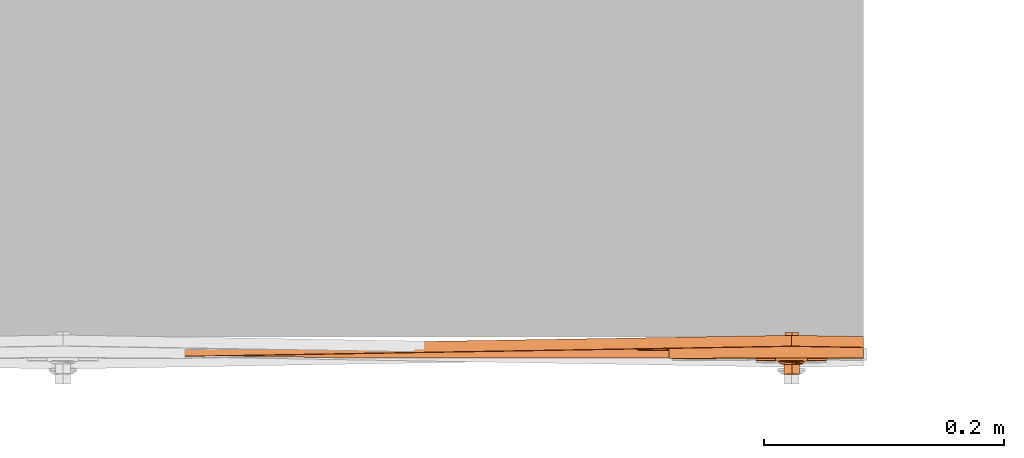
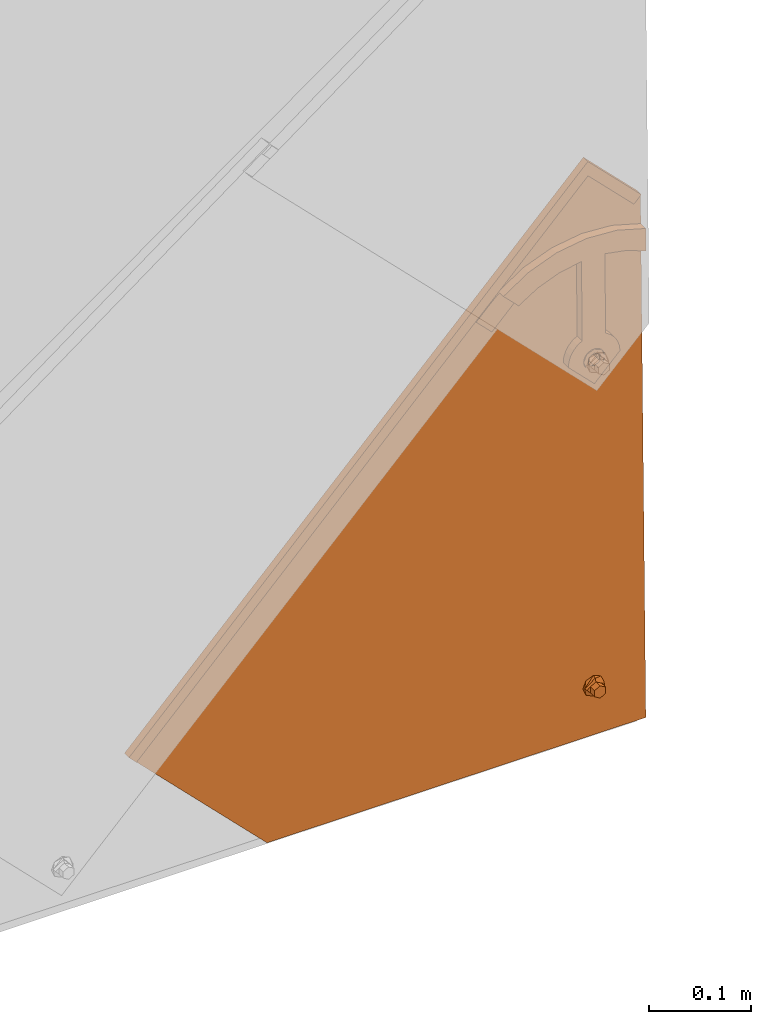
# One storey, part 147 of 151: 1 proxy.
"""IFC2X3 building model written with IfcOpenShell, lengths in millimetres."""

from ifc_helpers import new_model, entity, si_unit, converted_unit, derived_unit, direction, frame, origin, place, context, subcontext, project, spatial, faceted_brep, source, transform, mapped, material, material_list, type_object, type_shapes, element, save


model = new_model("IFC2X3")

# Units and contexts
model_context = context("Model", 3, precision=0.01, world=origin(), true_north=direction((6.12303176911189e-17, 1.0)))
body_context = subcontext(model_context, "Body", "Model", "MODEL_VIEW")
ifc_project = project(units=[si_unit("LENGTHUNIT", "METRE", prefix="MILLI"), si_unit("AREAUNIT", "SQUARE_METRE"), si_unit("VOLUMEUNIT", "CUBIC_METRE"), converted_unit("PLANEANGLEUNIT", "DEGREE", entity("IfcRatioMeasure", 0.0174532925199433), si_unit("PLANEANGLEUNIT", "RADIAN"), dimensions=[0, 0, 0, 0, 0, 0, 0]), si_unit("MASSUNIT", "GRAM", prefix="KILO"), derived_unit("MASSDENSITYUNIT", [(si_unit("MASSUNIT", "GRAM", prefix="KILO"), 1), (si_unit("LENGTHUNIT", "METRE"), -3)]), si_unit("TIMEUNIT", "SECOND"), si_unit("FREQUENCYUNIT", "HERTZ"), si_unit("THERMODYNAMICTEMPERATUREUNIT", "DEGREE_CELSIUS"), derived_unit("THERMALTRANSMITTANCEUNIT", [(si_unit("MASSUNIT", "GRAM", prefix="KILO"), 1), (si_unit("THERMODYNAMICTEMPERATUREUNIT", "KELVIN"), -1), (si_unit("TIMEUNIT", "SECOND"), -3)]), derived_unit("VOLUMETRICFLOWRATEUNIT", [(si_unit("LENGTHUNIT", "METRE"), 3), (si_unit("TIMEUNIT", "SECOND"), -1)]), si_unit("ELECTRICCURRENTUNIT", "AMPERE"), si_unit("ELECTRICVOLTAGEUNIT", "VOLT"), si_unit("POWERUNIT", "WATT"), si_unit("FORCEUNIT", "NEWTON", prefix="KILO"), si_unit("ILLUMINANCEUNIT", "LUX"), si_unit("LUMINOUSFLUXUNIT", "LUMEN"), si_unit("LUMINOUSINTENSITYUNIT", "CANDELA"), derived_unit("USERDEFINED", [(si_unit("MASSUNIT", "GRAM", prefix="KILO"), -1), (si_unit("LENGTHUNIT", "METRE"), -2), (si_unit("TIMEUNIT", "SECOND"), 3), (si_unit("LUMINOUSFLUXUNIT", "LUMEN"), 1)]), derived_unit("LINEARVELOCITYUNIT", [(si_unit("LENGTHUNIT", "METRE"), 1), (si_unit("TIMEUNIT", "SECOND"), -1)]), si_unit("PRESSUREUNIT", "PASCAL"), derived_unit("USERDEFINED", [(si_unit("LENGTHUNIT", "METRE"), -2), (si_unit("MASSUNIT", "GRAM", prefix="KILO"), 1), (si_unit("TIMEUNIT", "SECOND"), -2)])], contexts=[model_context])

# Site, building, storey
site_placement = place(None, origin())
site = spatial("IfcSite", under=ifc_project, at=site_placement, Name="Default", CompositionType="ELEMENT")
building_placement = place(site_placement, origin())
building = spatial("IfcBuilding", under=site, at=building_placement, CompositionType="ELEMENT")
storey_placement = place(building_placement, origin())
storey = spatial("IfcBuildingStorey", under=building, at=storey_placement, Name="Level 1", CompositionType="ELEMENT", Elevation=0.0)

# Proxy
ifc_material_1 = material(Name="Rubber - Sunstyle - Black")
ifc_material_2 = material(Name="Glass - Sunstyle - Tainted Terracotta")
ifc_material_list_1 = material_list([ifc_material_1, ifc_material_2])
ifc_material_list_2 = material_list([ifc_material_1, ifc_material_2])
building_element_proxy_type = type_object("IfcBuildingElementProxyType", Name="Corner Bottom Big Right - Terracotta", PredefinedType="NOTDEFINED", material=ifc_material_list_2)
shared_shape = source(origin(), body_context, "Body", "Brep", [
    faceted_brep([(0.270009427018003, -2.025866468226, -4.01619789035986), (-5.50419340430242, -5.35913660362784, -3.96037390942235), (-5.50419340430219, -4.99082751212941, 18.0314954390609), (0.270009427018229, -1.65755737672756, 17.9756714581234), (-5.50419340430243, -12.0256768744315, -3.84872594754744), (-5.5041934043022, -11.6573677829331, 18.1431434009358), (0.270009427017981, -15.3589470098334, -3.79290196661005), (0.270009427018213, -14.990637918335, 18.1989673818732), (6.04421225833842, -12.0256768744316, -3.84872594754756), (6.04421225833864, -11.6573677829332, 18.1431434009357), (6.04421225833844, -5.35913660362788, -3.96037390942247), (6.04421225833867, -4.99082751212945, 18.0314954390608), (-8.3336947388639, -16.9265954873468, 18.2313898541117), (0.27000942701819, -20.4898667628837, 18.2910657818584), (-11.8974656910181, -8.32409764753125, 18.0873194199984), (-8.33369473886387, 0.278400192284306, 17.9432489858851), (0.270009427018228, 3.84167146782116, 17.8835730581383), (8.87371359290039, 0.278400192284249, 17.9432489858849), (12.4374845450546, -8.32409764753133, 18.0873194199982), (8.87371359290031, -16.9265954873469, 18.2313898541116), (-11.1602134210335, -6.95050198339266, 20.4858706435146), (-9.50050407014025, -8.25322861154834, 22.3189355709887), (0.270009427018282, -0.940007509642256, 22.9603444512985), (0.27000942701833, 0.300490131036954, 22.3799978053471), (0.270009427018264, 2.4580409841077, 21.3706227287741), (-6.05323627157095, -4.59022324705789, 23.0214764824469), (-6.05323627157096, -11.8906547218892, 23.1437405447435), (0.270009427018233, -18.990246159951, 21.7298281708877), (0.270009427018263, -15.5408704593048, 23.2048725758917), (11.2551842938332, -12.0411541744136, 20.3827540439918), (10.3938597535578, -8.25726753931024, 22.077768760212), (6.59325512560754, -4.59022324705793, 23.0214764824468), (6.5932551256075, -11.8906547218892, 23.1437405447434), (-6.05323627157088, -11.7566262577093, 31.1466287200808), (0.270009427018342, -15.4068419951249, 31.207760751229), (0.270009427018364, -8.10641052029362, 31.0854966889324), (-6.05323627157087, -4.456194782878, 31.0243646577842), (6.59325512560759, -11.7566262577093, 31.1466287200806), (6.59325512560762, -4.45619478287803, 31.024364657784), (0.270009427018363, -0.805979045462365, 30.9632326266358), (0.270009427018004, -8.69240673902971, -3.90454992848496)], [[[0, 1, 2, 3]], [[1, 4, 5, 2]], [[4, 6, 7, 5]], [[6, 8, 9, 7]], [[8, 10, 11, 9]], [[10, 0, 3, 11]], [[12, 7, 13]], [[7, 12, 5]], [[14, 5, 12]], [[5, 14, 2]], [[15, 2, 14]], [[3, 2, 15]], [[15, 16, 3]], [[16, 17, 3]], [[11, 3, 17]], [[11, 17, 18]], [[9, 11, 18]], [[18, 19, 9]], [[7, 9, 19]], [[19, 13, 7]], [[15, 20, 16]], [[21, 22, 23, 24]], [[22, 21, 25]], [[20, 14, 12]], [[15, 14, 20]], [[25, 21, 26]], [[20, 24, 16]], [[12, 13, 27]], [[12, 27, 20]], [[21, 28, 26]], [[21, 27, 28]], [[20, 21, 24]], [[20, 27, 21]], [[19, 29, 13]], [[30, 23, 31]], [[30, 28, 27]], [[24, 23, 30]], [[29, 27, 13]], [[19, 18, 29]], [[29, 30, 27]], [[29, 17, 24]], [[24, 17, 16]], [[31, 32, 30]], [[23, 22, 31]], [[28, 30, 32]], [[29, 24, 30]], [[29, 18, 17]], [[33, 34, 35]], [[35, 36, 33]], [[34, 37, 35]], [[38, 35, 37]], [[35, 38, 39]], [[35, 39, 36]], [[40, 6, 4]], [[4, 1, 40]], [[1, 0, 40]], [[40, 8, 6]], [[0, 10, 40]], [[8, 40, 10]], [[22, 25, 36, 39]], [[25, 26, 33, 36]], [[26, 28, 34, 33]], [[28, 32, 37, 34]], [[32, 31, 38, 37]], [[31, 22, 39, 38]]]),
    faceted_brep([(-518.247351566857, 79.9143812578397, 14.9652572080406), (-518.247351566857, 79.9394990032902, 16.4650468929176), (-526.732038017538, 88.4241854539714, 16.3229495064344), (-526.732038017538, 88.399067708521, 14.8231598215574), (-0.00032251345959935, 614.98308737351, 6.00418773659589), (60.1037538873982, 554.895864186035, 7.01049921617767), (51.6190674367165, 546.411177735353, 7.15259660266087), (-0.000322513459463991, 598.016093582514, 6.28834266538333), (-0.000322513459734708, 615.00820511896, 7.50397742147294), (-0.000322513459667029, 598.041211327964, 7.78813235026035), (51.6190674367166, 546.436295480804, 8.65238628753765), (60.1037538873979, 554.920981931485, 8.51028890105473)], [[[0, 1, 2, 3]], [[0, 3, 4, 5, 6, 7]], [[3, 2, 8, 4]], [[2, 1, 9, 10, 11, 8]], [[1, 0, 7, 9]], [[6, 5, 11, 10]], [[4, 8, 11, 5]], [[9, 7, 6, 10]]]),
    faceted_brep([(0.0, 372.774440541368, 20.3195200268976), (0.0, 377.273809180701, 20.2441667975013), (-8.60370416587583, 376.337711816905, 20.2598440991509), (8.60370416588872, 376.337711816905, 20.2598440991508), (6.64022859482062, 381.107009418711, 20.1799702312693), (12.1674751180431, 384.940209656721, 20.1157736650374), (6.64022859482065, 388.773409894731, 20.0515770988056), (8.6037041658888, 393.542707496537, 19.9717032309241), (0.0, 392.606610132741, 19.9873805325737), (0.0, 397.105978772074, 19.9120273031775), (-8.60370416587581, 393.542707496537, 19.9717032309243), (-6.64022859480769, 388.773409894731, 20.0515770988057), (-12.1674751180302, 384.940209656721, 20.1157736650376), (-6.6402285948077, 381.107009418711, 20.1799702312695), (-6.6402282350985, 388.505487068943, 4.05382046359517), (0.0, 392.338687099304, 3.98962390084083), (-6.64022823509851, 380.839087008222, 4.18221358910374), (0.0, 377.005886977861, 4.24641015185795), (6.64022823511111, 380.839087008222, 4.1822135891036), (6.64022823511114, 388.505487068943, 4.05382046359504), (-8.603704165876, 376.069789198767, 4.26208746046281), (0.0, 372.50651792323, 4.32176338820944), (-12.1674751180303, 384.672287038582, 4.11801702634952), (-8.60370416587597, 393.274784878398, 3.97394659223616), (0.0, 396.838056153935, 3.91427066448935), (8.60370416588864, 393.274784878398, 3.97394659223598), (12.1674751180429, 384.672287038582, 4.11801702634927), (8.60370416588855, 376.069789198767, 4.26208746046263)], [[[0, 1, 2]], [[1, 0, 3]], [[3, 4, 1]], [[4, 3, 5]], [[6, 4, 5]], [[5, 7, 6]], [[7, 8, 6]], [[8, 7, 9]], [[8, 9, 10]], [[10, 11, 8]], [[12, 11, 10]], [[2, 13, 12]], [[12, 13, 11]], [[13, 2, 1]], [[8, 11, 14, 15]], [[11, 13, 16, 14]], [[13, 1, 17, 16]], [[1, 4, 18, 17]], [[4, 6, 19, 18]], [[6, 8, 15, 19]], [[20, 17, 21]], [[17, 20, 16]], [[22, 16, 20]], [[14, 16, 22]], [[23, 14, 22]], [[15, 14, 23]], [[23, 24, 15]], [[24, 25, 15]], [[19, 15, 25]], [[19, 25, 26]], [[26, 18, 19]], [[26, 27, 18]], [[17, 18, 27]], [[27, 21, 17]], [[24, 23, 10, 9]], [[10, 23, 22, 12]], [[20, 21, 0, 2]], [[20, 2, 12, 22]], [[21, 27, 3, 0]], [[3, 27, 26, 5]], [[25, 24, 9, 7]], [[25, 7, 5, 26]]]),
    faceted_brep([(-10.3923048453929, 390.78484910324, 9.75895037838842), (-8.48528137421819, 393.269782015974, 9.7173339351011), (-0.00032251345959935, 614.983087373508, 6.0041877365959), (-11.5911099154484, 387.891083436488, 9.8074137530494), (-6.0, 395.176538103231, 9.68540051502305), (-3.10582854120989, 396.37517508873, 9.6653263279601), (60.1037538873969, 554.895864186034, 7.01049921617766), (0.0, 396.784007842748, 9.65847939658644), (3.1058285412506, 396.37517508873, 9.6653263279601), (6.0, 395.176538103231, 9.68540051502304), (8.48528137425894, 393.269782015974, 9.7173339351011), (10.3923048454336, 390.784849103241, 9.75895037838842), (11.5911099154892, 387.891083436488, 9.8074137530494), (12.0, 384.785690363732, 9.8594213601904), (11.5911099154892, 381.680297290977, 9.9114289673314), (60.103753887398, -67.933460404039, 17.4413406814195), (10.3923048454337, 378.786531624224, 9.95989234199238), (6.58173564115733, -3.94243384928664, 16.369650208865), (8.48528137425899, 376.301598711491, 10.0015087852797), (5.31038666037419, -2.28581190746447, 16.3419059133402), (6.0, 374.394842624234, 10.0334422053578), (3.65353241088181, -1.01464118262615, 16.3206169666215), (3.10582854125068, 373.196205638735, 10.0535163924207), (1.72408477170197, -0.215549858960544, 16.3072341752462), (0.0, 372.787372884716, 10.0603633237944), (-0.346467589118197, 0.0570053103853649, 16.3026695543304), (-2.41701994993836, -0.215549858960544, 16.3072341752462), (-3.10582854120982, 373.196205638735, 10.0535163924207), (-4.34646758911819, -1.01464118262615, 16.3206169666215), (-6.0, 374.394842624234, 10.0334422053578), (-6.00332183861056, -2.28581190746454, 16.3419059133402), (-8.48528137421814, 376.301598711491, 10.0015087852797), (-370.355661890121, -67.9334604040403, 17.4413406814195), (-10.3923048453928, 378.786531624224, 9.95989234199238), (-526.732038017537, 88.3990677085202, 14.8231598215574), (-11.5911099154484, 381.680297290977, 9.9114289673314), (-12.0, 384.785690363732, 9.8594213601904), (-7.27467081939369, -3.94243384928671, 16.369650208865), (-8.07387419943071, -5.87161096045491, 16.4019591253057), (-8.34646758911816, -7.94187300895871, 16.4366308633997), (-8.0738741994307, -10.0121350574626, 16.4713026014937), (-7.27467081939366, -11.9413121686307, 16.5036115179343), (-6.00332183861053, -13.5979341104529, 16.5313558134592), (-4.34646758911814, -14.8691048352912, 16.5526447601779), (-2.41701994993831, -15.6681961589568, 16.5660275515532), (7.38093902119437, -5.87161096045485, 16.4019591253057), (7.65353241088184, -7.94187300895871, 16.4366308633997), (7.38093902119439, -10.0121350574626, 16.4713026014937), (6.58173564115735, -11.9413121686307, 16.5036115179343), (5.31038666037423, -13.5979341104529, 16.5313558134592), (3.65353241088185, -14.8691048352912, 16.5526447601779), (1.72408477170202, -15.6681961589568, 16.5660275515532), (-0.346467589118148, -15.9407513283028, 16.570592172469), (-370.355661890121, -68.0590491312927, 9.94239225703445), (-8.0738741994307, -10.1377237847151, 8.97235417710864), (-7.27467081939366, -12.0669008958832, 9.00466309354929), (-8.34646758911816, -8.06746173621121, 8.93768243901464), (-6.00332183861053, -13.7235228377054, 9.03240738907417), (-4.34646758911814, -14.9946935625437, 9.05369633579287), (60.103753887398, -68.0590491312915, 9.94239225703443), (-8.07387419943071, -5.99719968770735, 8.90301070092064), (-7.27467081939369, -4.06802257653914, 8.87070178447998), (-6.00332183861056, -2.41140063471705, 8.8429574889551), (-8.48528137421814, 376.176009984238, 2.50256036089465), (-10.3923048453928, 378.660942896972, 2.46094391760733), (-526.732038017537, 88.2734789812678, 7.32421139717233), (-11.5911099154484, 381.554708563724, 2.41248054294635), (-12.0, 384.66010163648, 2.36047293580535), (-11.5911099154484, 387.765494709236, 2.30846532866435), (-0.00032251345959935, 614.857498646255, -1.49476068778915), (-10.3923048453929, 390.659260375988, 2.26000195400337), (-8.48528137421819, 393.144193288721, 2.21838551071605), (-6.0, 395.050949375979, 2.18645209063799), (-3.10582854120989, 396.249586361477, 2.16637790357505), (60.1037538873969, 554.770275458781, -0.488449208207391), (0.0, 396.658419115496, 2.15953097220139), (3.1058285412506, 396.249586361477, 2.16637790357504), (6.0, 395.050949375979, 2.18645209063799), (8.48528137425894, 393.144193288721, 2.21838551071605), (10.3923048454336, 390.659260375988, 2.26000195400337), (11.5911099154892, 387.765494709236, 2.30846532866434), (12.0, 384.66010163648, 2.36047293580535), (11.5911099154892, 381.554708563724, 2.41248054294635), (-2.41701994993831, -15.7937848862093, 9.06707912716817), (-0.346467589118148, -16.0663400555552, 9.07164374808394), (1.72408477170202, -15.7937848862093, 9.06707912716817), (3.65353241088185, -14.9946935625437, 9.05369633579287), (5.31038666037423, -13.7235228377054, 9.03240738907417), (6.58173564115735, -12.0669008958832, 9.00466309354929), (7.38093902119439, -10.1377237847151, 8.97235417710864), (7.65353241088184, -8.06746173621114, 8.93768243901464), (7.38093902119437, -5.99719968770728, 8.90301070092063), (6.58173564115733, -4.06802257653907, 8.87070178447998), (10.3923048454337, 378.660942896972, 2.46094391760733), (-6.0, 374.269253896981, 2.5344937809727), (-4.34646758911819, -1.14022990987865, 8.8216685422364), (-3.10582854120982, 373.070616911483, 2.55456796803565), (-2.41701994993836, -0.341138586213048, 8.8082857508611), (0.0, 372.661784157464, 2.56141489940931), (-0.346467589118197, -0.0685834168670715, 8.80372112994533), (1.72408477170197, -0.341138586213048, 8.8082857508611), (3.10582854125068, 373.070616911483, 2.55456796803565), (3.65353241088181, -1.14022990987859, 8.8216685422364), (6.0, 374.269253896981, 2.5344937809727), (5.31038666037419, -2.41140063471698, 8.8429574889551), (8.48528137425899, 376.176009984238, 2.50256036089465)], [[[0, 1, 2]], [[3, 0, 2]], [[4, 2, 1]], [[2, 4, 5]], [[6, 2, 5]], [[7, 6, 5]], [[7, 8, 6]], [[8, 9, 6]], [[10, 6, 9]], [[6, 10, 11]], [[6, 11, 12]], [[12, 13, 6]], [[13, 14, 6]], [[6, 14, 15]], [[14, 16, 15]], [[17, 15, 16]], [[18, 17, 16]], [[17, 18, 19]], [[18, 20, 19]], [[21, 19, 20]], [[20, 22, 21]], [[23, 21, 22]], [[24, 23, 22]], [[23, 24, 25]], [[26, 25, 24]], [[24, 27, 26]], [[26, 27, 28]], [[29, 28, 27]], [[28, 29, 30]], [[29, 31, 30]], [[32, 30, 31]], [[33, 32, 31]], [[33, 34, 32]], [[33, 35, 34]], [[35, 36, 34]], [[36, 3, 34]], [[3, 2, 34]], [[30, 32, 37]], [[37, 32, 38]], [[32, 39, 38]], [[39, 32, 40]], [[40, 32, 41]], [[42, 41, 32]], [[42, 32, 43]], [[43, 32, 15]], [[15, 44, 43]], [[17, 45, 15]], [[45, 46, 15]], [[47, 15, 46]], [[47, 48, 15]], [[49, 15, 48]], [[15, 49, 50]], [[50, 51, 15]], [[51, 52, 15]], [[52, 44, 15]], [[53, 54, 55]], [[54, 53, 56]], [[53, 55, 57]], [[57, 58, 53]], [[53, 58, 59]], [[60, 56, 53]], [[61, 60, 53]], [[61, 53, 62]], [[63, 62, 53]], [[64, 63, 53]], [[65, 64, 53]], [[65, 66, 64]], [[66, 65, 67]], [[67, 65, 68]], [[65, 69, 68]], [[70, 68, 69]], [[71, 70, 69]], [[72, 71, 69]], [[69, 73, 72]], [[74, 73, 69]], [[75, 73, 74]], [[76, 75, 74]], [[77, 76, 74]], [[74, 78, 77]], [[78, 74, 79]], [[80, 79, 74]], [[80, 74, 81]], [[82, 81, 74]], [[82, 74, 59]], [[59, 58, 83]], [[84, 59, 83]], [[84, 85, 59]], [[85, 86, 59]], [[87, 59, 86]], [[59, 87, 88]], [[59, 88, 89]], [[89, 90, 59]], [[90, 91, 59]], [[91, 92, 59]], [[92, 93, 59]], [[93, 82, 59]], [[94, 62, 63]], [[94, 95, 62]], [[96, 95, 94]], [[97, 95, 96]], [[96, 98, 97]], [[99, 97, 98]], [[99, 98, 100]], [[101, 100, 98]], [[102, 100, 101]], [[103, 102, 101]], [[104, 102, 103]], [[103, 105, 104]], [[105, 92, 104]], [[105, 93, 92]], [[36, 67, 68, 3]], [[3, 68, 70, 0]], [[4, 1, 71, 72]], [[70, 71, 1, 0]], [[5, 4, 72, 73]], [[75, 7, 5, 73]], [[8, 76, 77, 9]], [[9, 77, 78, 10]], [[12, 11, 79, 80]], [[78, 79, 11, 10]], [[13, 12, 80, 81]], [[8, 7, 75, 76]], [[13, 81, 82, 14]], [[14, 82, 93, 16]], [[20, 18, 105, 103]], [[93, 105, 18, 16]], [[22, 20, 103, 101]], [[98, 24, 22, 101]], [[27, 96, 94, 29]], [[29, 94, 63, 31]], [[35, 33, 64, 66]], [[63, 64, 33, 31]], [[36, 35, 66, 67]], [[27, 24, 98, 96]], [[34, 2, 69, 65]], [[32, 34, 65, 53]], [[15, 32, 53, 59]], [[6, 15, 59, 74]], [[2, 6, 74, 69]], [[39, 56, 60, 38]], [[38, 60, 61, 37]], [[28, 30, 62, 95]], [[62, 30, 37, 61]], [[26, 28, 95, 97]], [[26, 97, 99, 25]], [[25, 99, 100, 23]], [[23, 100, 102, 21]], [[17, 19, 104, 92]], [[104, 19, 21, 102]], [[45, 17, 92, 91]], [[45, 91, 90, 46]], [[46, 90, 89, 47]], [[47, 89, 88, 48]], [[50, 49, 87, 86]], [[87, 49, 48, 88]], [[51, 50, 86, 85]], [[51, 85, 84, 52]], [[52, 84, 83, 44]], [[44, 83, 58, 43]], [[41, 42, 57, 55]], [[57, 42, 43, 58]], [[40, 41, 55, 54]], [[40, 54, 56, 39]]]),
    faceted_brep([(-114.2509690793, 483.839345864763, 10.7008696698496), (-128.946713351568, 469.147722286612, 10.9469178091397), (-111.269043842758, 451.472531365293, 11.2429332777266), (-84.944396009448, 477.793488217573, 10.8021227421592), (-102.027571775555, 494.874268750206, 10.5160621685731), (-108.279973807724, 489.512620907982, 10.6058564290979), (0.0, 355.735286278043, 10.3459433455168), (0.0, 373.122276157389, 10.0547545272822), (3.10582854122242, 373.531108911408, 10.0479075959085), (-3.10582854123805, 373.531108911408, 10.0479075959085), (6.0, 374.729745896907, 10.0278334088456), (8.48528137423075, 376.636501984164, 9.99589998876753), (29.3894280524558, 385.120593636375, 9.85381256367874), (-6.0, 374.729745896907, 10.0278334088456), (-8.4852813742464, 376.636501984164, 9.99589998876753), (-29.3894280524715, 385.120593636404, 9.85381256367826), (-10.3923048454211, 379.121434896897, 9.95428354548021), (-11.5911099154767, 382.01520056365, 9.90582017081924), (-12.0, 385.120593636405, 9.85381256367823), (-28.6795527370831, 391.540108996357, 9.74630165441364), (-11.5911099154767, 388.225986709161, 9.80180495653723), (-26.5842195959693, 397.649509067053, 9.64398440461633), (-10.3923048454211, 391.119752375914, 9.75334158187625), (-23.204650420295, 403.153659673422, 9.55180357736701), (-8.48528137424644, 393.604685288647, 9.71172513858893), (-18.704106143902, 407.786665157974, 9.47421226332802), (-6.0, 395.511441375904, 9.67979171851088), (-13.3000000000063, 411.324713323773, 9.41495875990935), (-3.10582854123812, 396.710078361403, 9.65971753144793), (0.0, 397.118911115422, 9.65287060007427), (13.2999999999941, 411.324713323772, 9.41495875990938), (-13.3000000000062, 505.643535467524, 7.83535317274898), (13.2999999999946, 505.643535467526, 7.83535317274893), (-7.21723712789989, 530.953901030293, 7.41146752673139), (-41.1626974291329, 525.784666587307, 7.49803934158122), (-38.7697427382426, 500.828655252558, 7.91599043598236), (-73.2491712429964, 513.560140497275, 7.70276973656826), (-62.9243331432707, 491.42502143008, 8.07347790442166), (-84.9431983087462, 477.752822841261, 8.30245321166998), (-102.027571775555, 494.832405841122, 8.01641269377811), (-108.279973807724, 489.470757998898, 8.10620695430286), (-114.2509690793, 483.79748295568, 8.20122019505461), (-111.269043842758, 451.430668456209, 8.74328380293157), (-128.946713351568, 469.105859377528, 8.44726833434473), (27.0541674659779, 528.834391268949, 7.44696404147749), (37.2599857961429, 501.252149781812, 7.90889795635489), (60.1037538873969, 519.521858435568, 7.60292579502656), (60.1037538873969, 492.795625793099, 8.05052369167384), (3.10582854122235, 396.710078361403, 9.65971753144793), (6.0, 395.511441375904, 9.67979171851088), (18.7041061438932, 407.786665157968, 9.47421226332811), (8.48528137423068, 393.604685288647, 9.71172513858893), (23.2046504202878, 403.153659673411, 9.55180357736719), (10.3923048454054, 391.119752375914, 9.75334158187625), (26.5842195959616, 397.649509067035, 9.64398440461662), (11.591109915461, 388.225986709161, 9.80180495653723), (28.6795527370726, 391.540108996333, 9.74630165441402), (12.0, 385.120593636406, 9.85381256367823), (11.591109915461, 382.01520056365, 9.90582017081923), (10.3923048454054, 379.121434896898, 9.95428354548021), (-38.7697427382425, 500.996106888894, 17.9145883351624), (-41.1626974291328, 525.952118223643, 17.4966372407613), (-73.2491712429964, 513.727592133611, 17.7013676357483), (-62.9243331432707, 491.592473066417, 18.0720758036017), (-13.3000000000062, 505.810987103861, 17.833951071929), (-7.21723712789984, 531.121352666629, 17.4100654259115), (13.2999999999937, 505.810987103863, 17.833951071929), (-13.3000000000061, 411.49216496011, 19.4135566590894), (13.2999999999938, 411.492164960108, 19.4135566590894), (0.0, 397.286362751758, 19.6514684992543), (-3.10582854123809, 396.877529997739, 19.658315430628), (-6.0, 395.678893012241, 19.6783896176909), (-18.7041061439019, 407.954116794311, 19.4728101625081), (-8.48528137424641, 393.772136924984, 19.710323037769), (-23.2046504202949, 403.321111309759, 19.5504014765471), (-10.3923048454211, 391.28720401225, 19.7519394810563), (-26.5842195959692, 397.816960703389, 19.6425823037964), (-11.5911099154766, 388.393438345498, 19.8004028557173), (-28.6795527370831, 391.707560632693, 19.7448995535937), (-12.0, 385.288045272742, 19.8524104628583), (-29.3894280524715, 385.28804527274, 19.8524104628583), (-11.5911099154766, 382.182652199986, 19.9044180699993), (-10.3923048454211, 379.288886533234, 19.9528814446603), (-8.48528137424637, 376.803953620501, 19.9944978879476), (0.0, 355.902737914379, 20.3445412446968), (-6.0, 374.897197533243, 20.0264313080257), (-3.10582854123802, 373.698560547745, 20.0465054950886), (0.0, 373.289727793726, 20.0533524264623), (3.10582854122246, 373.698560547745, 20.0465054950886), (6.0, 374.897197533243, 20.0264313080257), (8.48528137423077, 376.803953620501, 19.9944978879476), (29.3894280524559, 385.288045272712, 19.8524104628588), (10.3923048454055, 379.288886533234, 19.9528814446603), (11.591109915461, 382.182652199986, 19.9044180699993), (12.0, 385.288045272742, 19.8524104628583), (28.6795527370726, 391.70756063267, 19.7448995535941), (11.591109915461, 388.393438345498, 19.8004028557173), (26.5842195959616, 397.816960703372, 19.6425823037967), (10.3923048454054, 391.28720401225, 19.7519394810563), (23.2046504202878, 403.321111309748, 19.5504014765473), (8.48528137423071, 393.772136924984, 19.710323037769), (18.7041061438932, 407.954116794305, 19.4728101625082), (6.0, 395.678893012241, 19.6783896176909), (3.10582854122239, 396.877529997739, 19.658315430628), (27.0541674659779, 529.001842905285, 17.4455619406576), (37.259985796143, 501.419601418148, 17.907495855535), (60.1037538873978, 519.689310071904, 17.6015236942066), (60.1037538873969, 492.963077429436, 18.0491215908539), (-84.9443960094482, 477.919076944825, 18.3010711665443), (-102.027571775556, 494.999857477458, 18.0150105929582)], [[[0, 1, 2, 3, 4, 5]], [[6, 7, 8]], [[7, 6, 9]], [[6, 8, 10]], [[10, 11, 6]], [[6, 11, 12]], [[13, 9, 6]], [[14, 13, 6]], [[14, 6, 15]], [[15, 16, 14]], [[16, 15, 17]], [[17, 15, 18]], [[19, 18, 15]], [[20, 18, 19]], [[19, 21, 20]], [[20, 21, 22]], [[23, 22, 21]], [[23, 24, 22]], [[23, 25, 24]], [[25, 26, 24]], [[26, 25, 27]], [[28, 26, 27]], [[27, 29, 28]], [[30, 29, 27]], [[30, 27, 31]], [[30, 31, 32]], [[31, 33, 32]], [[33, 31, 34]], [[35, 34, 31]], [[34, 35, 36]], [[37, 36, 35]], [[37, 38, 36]], [[36, 38, 39]], [[40, 39, 38]], [[40, 38, 41]], [[38, 42, 41]], [[42, 43, 41]], [[32, 33, 44]], [[44, 45, 32]], [[45, 44, 46]], [[46, 47, 45]], [[48, 29, 30]], [[30, 49, 48]], [[49, 30, 50]], [[50, 51, 49]], [[50, 52, 51]], [[51, 52, 53]], [[54, 53, 52]], [[54, 55, 53]], [[56, 55, 54]], [[57, 55, 56]], [[12, 57, 56]], [[58, 57, 12]], [[12, 11, 59]], [[58, 12, 59]], [[1, 0, 41, 43]], [[2, 1, 43, 42]], [[4, 39, 40, 5]], [[40, 41, 0, 5]], [[3, 2, 42, 38]], [[60, 61, 62]], [[63, 60, 62]], [[64, 61, 60]], [[61, 64, 65]], [[66, 65, 64]], [[66, 64, 67]], [[66, 67, 68]], [[68, 67, 69]], [[67, 70, 69]], [[71, 70, 67]], [[71, 67, 72]], [[72, 73, 71]], [[73, 72, 74]], [[73, 74, 75]], [[74, 76, 75]], [[75, 76, 77]], [[78, 77, 76]], [[78, 79, 77]], [[78, 80, 79]], [[79, 80, 81]], [[82, 81, 80]], [[83, 82, 80]], [[83, 80, 84]], [[85, 83, 84]], [[86, 85, 84]], [[87, 86, 84]], [[87, 84, 88]], [[89, 88, 84]], [[89, 84, 90]], [[91, 90, 84]], [[92, 90, 91]], [[91, 93, 92]], [[93, 91, 94]], [[95, 94, 91]], [[95, 96, 94]], [[95, 97, 96]], [[96, 97, 98]], [[99, 98, 97]], [[98, 99, 100]], [[100, 99, 101]], [[101, 68, 102]], [[100, 101, 102]], [[102, 68, 103]], [[103, 68, 69]], [[66, 104, 65]], [[105, 104, 66]], [[105, 106, 104]], [[106, 105, 107]], [[108, 63, 62]], [[62, 109, 108]], [[66, 68, 30, 32]], [[95, 91, 12, 56]], [[97, 95, 56, 54]], [[54, 52, 99, 97]], [[101, 99, 52, 50]], [[68, 101, 50, 30]], [[91, 84, 6, 12]], [[84, 80, 15, 6]], [[72, 67, 27, 25]], [[74, 72, 25, 23]], [[23, 21, 76, 74]], [[78, 76, 21, 19]], [[80, 78, 19, 15]], [[67, 64, 31, 27]], [[104, 106, 46, 44]], [[65, 104, 44, 33]], [[33, 34, 61, 65]], [[62, 61, 34, 36]], [[4, 109, 62, 36, 39]], [[79, 18, 20, 77]], [[77, 20, 22, 75]], [[71, 73, 24, 26]], [[22, 24, 73, 75]], [[70, 71, 26, 28]], [[29, 69, 70, 28]], [[103, 48, 49, 102]], [[102, 49, 51, 100]], [[96, 98, 53, 55]], [[51, 53, 98, 100]], [[94, 96, 55, 57]], [[103, 69, 29, 48]], [[94, 57, 58, 93]], [[93, 58, 59, 92]], [[89, 90, 11, 10]], [[59, 11, 90, 92]], [[88, 89, 10, 8]], [[7, 87, 88, 8]], [[86, 9, 13, 85]], [[85, 13, 14, 83]], [[81, 82, 16, 17]], [[14, 16, 82, 83]], [[79, 81, 17, 18]], [[86, 87, 7, 9]], [[108, 109, 4, 3]], [[32, 45, 105, 66]], [[47, 107, 105, 45]], [[3, 37, 63, 108]], [[3, 38, 37]], [[35, 31, 64, 60]], [[37, 35, 60, 63]], [[106, 107, 47, 46]]]),
])
type_shapes(building_element_proxy_type, [shared_shape])
proxy_placement = place(storey_placement, frame((-11266.69342414, -13191.873651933, 309.446668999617), z_axis=(0.0, -1.0, 0.0), x_axis=(1.0, 0.0, 0.0)))
element("IfcBuildingElementProxy", 1, at=proxy_placement, inside=storey, type_object=building_element_proxy_type, material=ifc_material_list_1, Name="Roofing_Panels_SunStyle_Tile_Corner-Bottom-Big-Right:Corner Bottom Big Right - Terracotta", ObjectType="Roofing_Panels_SunStyle_Tile_Corner-Bottom-Big-Right:Corner Bottom Big Right - Terracotta", context=body_context, shape_type="MappedRepresentation", body=[
    mapped(shared_shape, transform((0.0, 0.0, 0.0), scale=1.0)),
])

save(model, "model.ifc")
